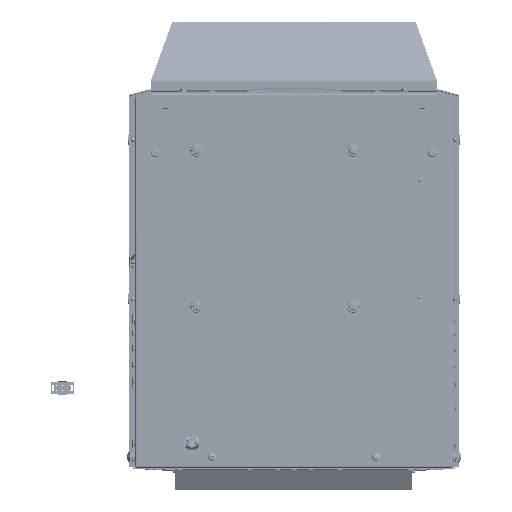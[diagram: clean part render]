
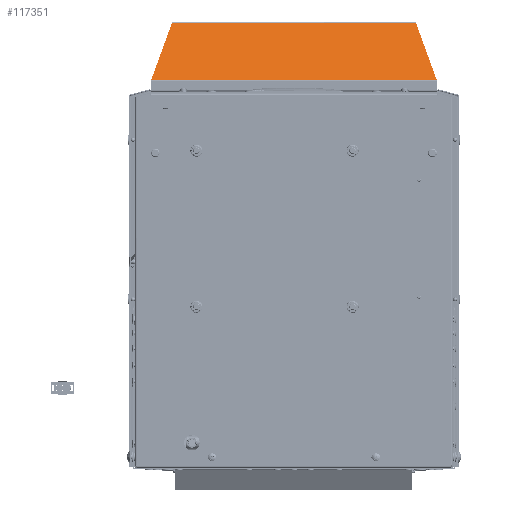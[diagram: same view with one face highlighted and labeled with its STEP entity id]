
A CAD part, front view. The second image highlights one B-rep face of the part: STEP entity #117351.
In plain terms, the highlighted planar face has unit normal (0, -0.866, 0.5).
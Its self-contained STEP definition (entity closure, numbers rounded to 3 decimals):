
#5687 = LINE ( 'NONE', #630574, #167443 ) ;
#12816 = FACE_OUTER_BOUND ( 'NONE', #163741, .T. ) ;
#39558 = ORIENTED_EDGE ( 'NONE', *, *, #567444, .T. ) ;
#40660 = EDGE_CURVE ( 'NONE', #594276, #381374, #5687, .T. ) ;
#117351 = ADVANCED_FACE ( 'NONE', ( #12816 ), #272785, .T. ) ;
#121115 = LINE ( 'NONE', #131115, #442719 ) ;
#131115 = CARTESIAN_POINT ( 'NONE',  ( 174.155, -125.731, 14.466 ) ) ;
#151404 = AXIS2_PLACEMENT_3D ( 'NONE', #478907, #377572, #583682 ) ;
#163741 = EDGE_LOOP ( 'NONE', ( #39558, #180367, #476328, #447944 ) ) ;
#167443 = VECTOR ( 'NONE', #461817, 1000. ) ;
#180367 = ORIENTED_EDGE ( 'NONE', *, *, #502587, .T. ) ;
#205630 = EDGE_CURVE ( 'NONE', #594276, #313784, #440988, .T. ) ;
#208627 = CARTESIAN_POINT ( 'NONE',  ( -174.155, -125.731, 14.466 ) ) ;
#209299 = CARTESIAN_POINT ( 'NONE',  ( -148.827, -85.587, 83.997 ) ) ;
#226844 = VERTEX_POINT ( 'NONE', #323029 ) ;
#228177 = DIRECTION ( 'NONE',  ( -0.301, -0.477, -0.826 ) ) ;
#272785 = PLANE ( 'NONE',  #151404 ) ;
#278858 = CARTESIAN_POINT ( 'NONE',  ( -148.667, -85.334, 84.436 ) ) ;
#307439 = CARTESIAN_POINT ( 'NONE',  ( -174.5, -125.731, 14.466 ) ) ;
#313784 = VERTEX_POINT ( 'NONE', #208627 ) ;
#323029 = CARTESIAN_POINT ( 'NONE',  ( 174.155, -125.731, 14.466 ) ) ;
#358159 = LINE ( 'NONE', #307439, #398795 ) ;
#377572 = DIRECTION ( 'NONE',  ( 0., -0.866, 0.5 ) ) ;
#381374 = VERTEX_POINT ( 'NONE', #601903 ) ;
#398795 = VECTOR ( 'NONE', #408915, 1000. ) ;
#408915 = DIRECTION ( 'NONE',  ( 1., 0., 0. ) ) ;
#440988 = LINE ( 'NONE', #278858, #653430 ) ;
#442719 = VECTOR ( 'NONE', #587389, 1000. ) ;
#447944 = ORIENTED_EDGE ( 'NONE', *, *, #205630, .T. ) ;
#461817 = DIRECTION ( 'NONE',  ( 1., 0., 0. ) ) ;
#476328 = ORIENTED_EDGE ( 'NONE', *, *, #40660, .F. ) ;
#478907 = CARTESIAN_POINT ( 'NONE',  ( -174.5, -85.008, 85. ) ) ;
#502587 = EDGE_CURVE ( 'NONE', #226844, #381374, #121115, .T. ) ;
#567444 = EDGE_CURVE ( 'NONE', #313784, #226844, #358159, .T. ) ;
#583682 = DIRECTION ( 'NONE',  ( 0., -0.5, -0.866 ) ) ;
#587389 = DIRECTION ( 'NONE',  ( -0.301, 0.477, 0.826 ) ) ;
#594276 = VERTEX_POINT ( 'NONE', #209299 ) ;
#601903 = CARTESIAN_POINT ( 'NONE',  ( 148.827, -85.587, 83.997 ) ) ;
#630574 = CARTESIAN_POINT ( 'NONE',  ( -174.5, -85.587, 83.997 ) ) ;
#653430 = VECTOR ( 'NONE', #228177, 1000. ) ;
